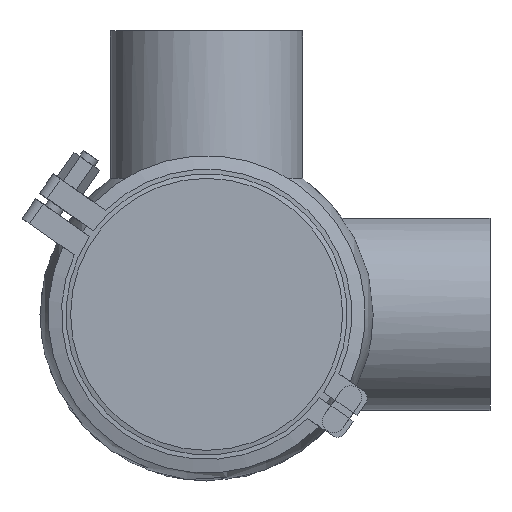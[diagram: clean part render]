
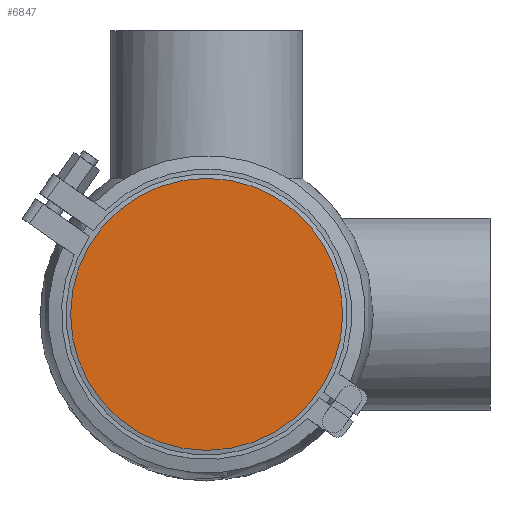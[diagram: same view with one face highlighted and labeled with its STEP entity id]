
A CAD part, front view. The second image highlights one B-rep face of the part: STEP entity #6847.
In plain terms, the highlighted planar face has unit normal (0, -1, 0).
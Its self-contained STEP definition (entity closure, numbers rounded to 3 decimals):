
#1144 = EDGE_CURVE ( 'NONE', #5798, #5798, #20677, .T. ) ;
#2810 = ORIENTED_EDGE ( 'NONE', *, *, #1144, .F. ) ;
#4952 = AXIS2_PLACEMENT_3D ( 'NONE', #10806, #18745, #15644 ) ;
#5537 = CARTESIAN_POINT ( 'NONE',  ( -60., 0., 0. ) ) ;
#5798 = VERTEX_POINT ( 'NONE', #10177 ) ;
#6847 = ADVANCED_FACE ( 'NONE', ( #17012 ), #11064, .T. ) ;
#10177 = CARTESIAN_POINT ( 'NONE',  ( 0., 0., 60. ) ) ;
#10560 = DIRECTION ( 'NONE',  ( 0., 0., -1. ) ) ;
#10806 = CARTESIAN_POINT ( 'NONE',  ( 0., 0., 0. ) ) ;
#11064 = PLANE ( 'NONE',  #19389 ) ;
#11946 = EDGE_LOOP ( 'NONE', ( #2810 ) ) ;
#15644 = DIRECTION ( 'NONE',  ( 0., 0., 1. ) ) ;
#17012 = FACE_OUTER_BOUND ( 'NONE', #11946, .T. ) ;
#17624 = DIRECTION ( 'NONE',  ( 0., -1., 0. ) ) ;
#18745 = DIRECTION ( 'NONE',  ( 0., 1., 0. ) ) ;
#19389 = AXIS2_PLACEMENT_3D ( 'NONE', #5537, #17624, #10560 ) ;
#20677 = CIRCLE ( 'NONE', #4952, 60. ) ;
